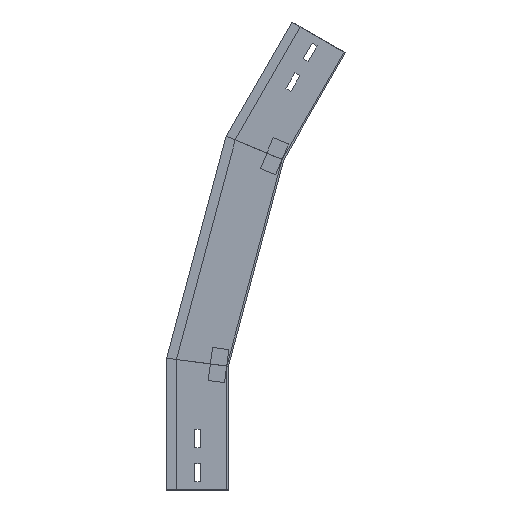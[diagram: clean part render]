
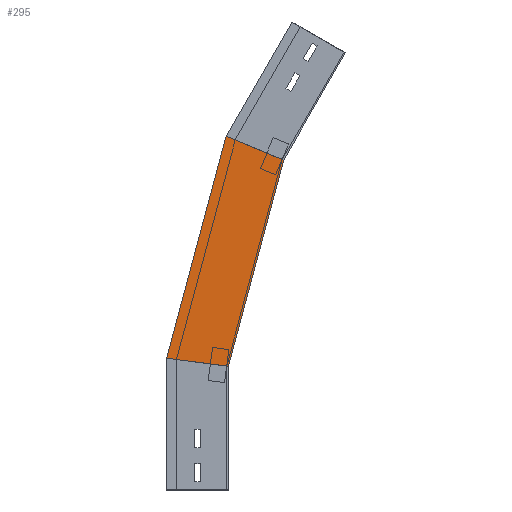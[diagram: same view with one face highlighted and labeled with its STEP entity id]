
A CAD part, left-side view. The second image highlights one B-rep face of the part: STEP entity #295.
In plain terms, the highlighted planar face has unit normal (-1, 0, 0) as drawn and (1, 0, 0) by its records, which use the part's own axes.
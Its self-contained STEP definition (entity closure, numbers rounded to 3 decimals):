
#24 = CARTESIAN_POINT ( 'NONE',  ( 0., 2.837, 139.412 ) ) ;
#31 = VERTEX_POINT ( 'NONE', #662 ) ;
#47 = EDGE_CURVE ( 'NONE', #259, #1285, #879, .T. ) ;
#61 = VERTEX_POINT ( 'NONE', #337 ) ;
#85 = DIRECTION ( 'NONE',  ( 1., 0., 0. ) ) ;
#143 = ORIENTED_EDGE ( 'NONE', *, *, #1152, .T. ) ;
#190 = DIRECTION ( 'NONE',  ( 0., -0.259, 0.966 ) ) ;
#259 = VERTEX_POINT ( 'NONE', #978 ) ;
#290 = EDGE_CURVE ( 'NONE', #31, #61, #731, .T. ) ;
#295 = ADVANCED_FACE ( 'NONE', ( #856 ), #1327, .T. ) ;
#337 = CARTESIAN_POINT ( 'NONE',  ( 0., 0., 150. ) ) ;
#433 = DIRECTION ( 'NONE',  ( 0., -0.924, -0.383 ) ) ;
#494 = ORIENTED_EDGE ( 'NONE', *, *, #290, .F. ) ;
#504 = CARTESIAN_POINT ( 'NONE',  ( 0., -19.411, 147.444 ) ) ;
#549 = CARTESIAN_POINT ( 'NONE',  ( 0., -99.589, 386.69 ) ) ;
#565 = AXIS2_PLACEMENT_3D ( 'NONE', #24, #85, #995 ) ;
#630 = EDGE_LOOP ( 'NONE', ( #143, #728, #1176, #494 ) ) ;
#634 = VECTOR ( 'NONE', #433, 1000. ) ;
#657 = LINE ( 'NONE', #769, #1085 ) ;
#662 = CARTESIAN_POINT ( 'NONE',  ( 0., 75., 159.874 ) ) ;
#681 = CARTESIAN_POINT ( 'NONE',  ( 0., -67.034, 400.175 ) ) ;
#728 = ORIENTED_EDGE ( 'NONE', *, *, #47, .T. ) ;
#731 = LINE ( 'NONE', #504, #815 ) ;
#769 = CARTESIAN_POINT ( 'NONE',  ( 0., 75.281, 158.824 ) ) ;
#815 = VECTOR ( 'NONE', #972, 1000. ) ;
#856 = FACE_OUTER_BOUND ( 'NONE', #630, .T. ) ;
#879 = LINE ( 'NONE', #549, #634 ) ;
#972 = DIRECTION ( 'NONE',  ( 0., -0.991, -0.131 ) ) ;
#978 = CARTESIAN_POINT ( 'NONE',  ( 0., 2.855, 429.124 ) ) ;
#990 = LINE ( 'NONE', #1214, #1084 ) ;
#995 = DIRECTION ( 'NONE',  ( 0., 0., -1. ) ) ;
#1084 = VECTOR ( 'NONE', #1343, 1000. ) ;
#1085 = VECTOR ( 'NONE', #190, 1000. ) ;
#1152 = EDGE_CURVE ( 'NONE', #31, #259, #657, .T. ) ;
#1176 = ORIENTED_EDGE ( 'NONE', *, *, #1221, .F. ) ;
#1214 = CARTESIAN_POINT ( 'NONE',  ( 0., 2.837, 139.412 ) ) ;
#1221 = EDGE_CURVE ( 'NONE', #61, #1285, #990, .T. ) ;
#1285 = VERTEX_POINT ( 'NONE', #681 ) ;
#1327 = PLANE ( 'NONE',  #565 ) ;
#1343 = DIRECTION ( 'NONE',  ( 0., -0.259, 0.966 ) ) ;
